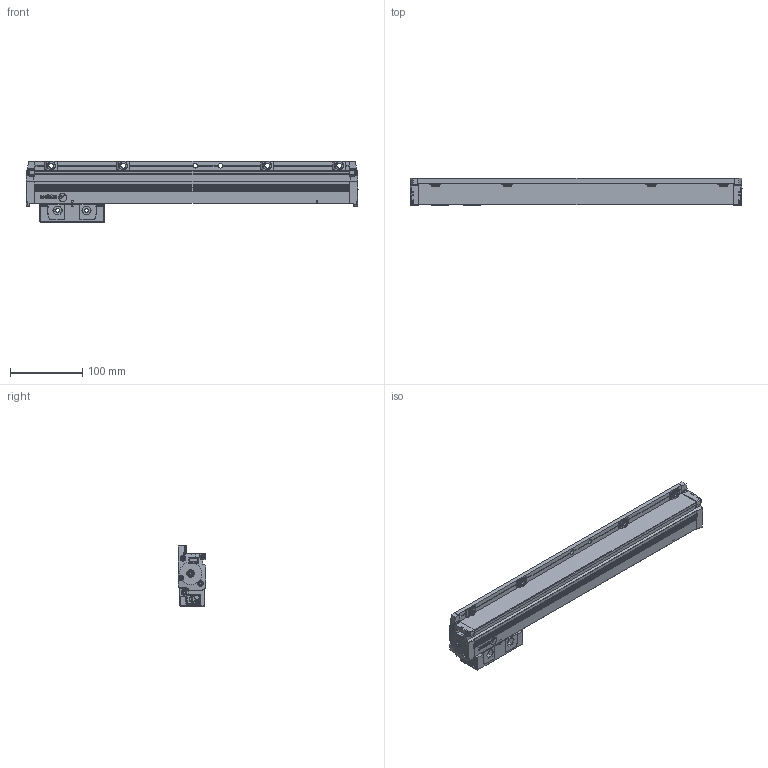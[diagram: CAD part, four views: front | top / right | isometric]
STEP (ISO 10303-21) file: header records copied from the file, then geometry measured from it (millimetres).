
FILE_DESCRIPTION(('Creo Elements/Direct Modeling STEP Export'),'2;1');
FILE_NAME('Regla G2-340-T.stp','2015-10-02T10:57:23',(''),(''),'Creo Elements/Direct Modeling STEP processor for AP214 (Solid Model)','Creo Elements/Direct Modeling 18.1G 27-Feb-2015 (C) Parametric Technology GmbH','');
FILE_SCHEMA(('AUTOMOTIVE_DESIGN { 1 0 10303 214 1 1 1 1 }'));
Length unit declared in the file: millimetre
Products named in the file (3): CABEZA; REGLA; Regla_G2_cm340-T
Assembly tree (2 placements, depth 2):
  Regla_G2_cm340-T
    REGLA
    CABEZA
Bounding box: 461 x 38 x 85 mm (x, y, z)
Volume: 756877.3 mm3; surface area: 153782.6 mm2
Topology: 2 solids, 7 shells, 1301 faces, 3643 edges, 2374 vertices
Faces by surface type: plane 603, cylinder 510, cone 118, torus 36, bspline 30, sphere 4
Entity records: 49533 total; most frequent: CARTESIAN_POINT 16519, ORIENTED_EDGE 7270, DIRECTION 6479, EDGE_CURVE 3635, VERTEX_POINT 2374, AXIS2_PLACEMENT_3D 2321, VECTOR 1837, LINE 1837
